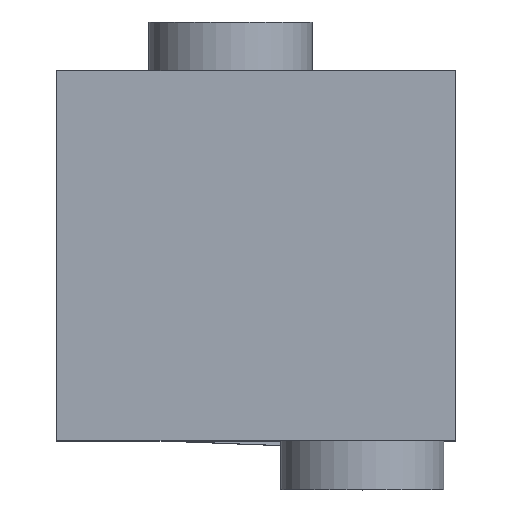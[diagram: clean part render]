
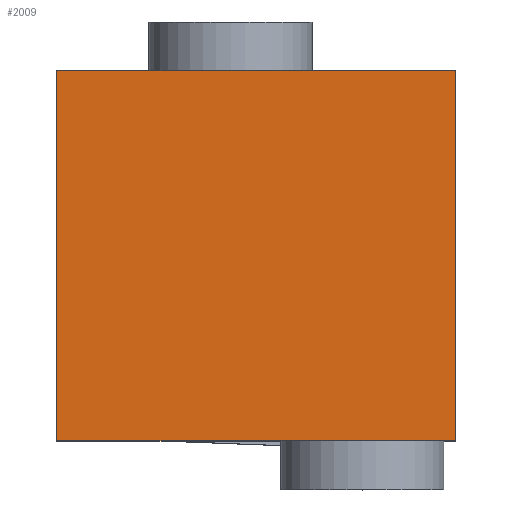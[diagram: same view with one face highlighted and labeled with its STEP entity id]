
A CAD part, top view. The second image highlights one B-rep face of the part: STEP entity #2009.
In plain terms, the highlighted planar face has unit normal (0, 0, 1).
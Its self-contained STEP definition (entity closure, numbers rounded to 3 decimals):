
#140=PLANE('',#2256);
#250=FACE_OUTER_BOUND('',#371,.T.);
#371=EDGE_LOOP('',(#1774,#1775,#1776,#1777));
#500=LINE('',#3695,#634);
#503=LINE('',#3701,#637);
#504=LINE('',#3702,#638);
#505=LINE('',#3703,#639);
#634=VECTOR('',#2796,10.);
#637=VECTOR('',#2801,10.);
#638=VECTOR('',#2802,10.);
#639=VECTOR('',#2803,10.);
#944=VERTEX_POINT('',#3693);
#945=VERTEX_POINT('',#3694);
#946=VERTEX_POINT('',#3699);
#947=VERTEX_POINT('',#3700);
#1226=EDGE_CURVE('',#944,#945,#500,.T.);
#1229=EDGE_CURVE('',#946,#947,#503,.T.);
#1230=EDGE_CURVE('',#945,#947,#504,.T.);
#1231=EDGE_CURVE('',#946,#944,#505,.T.);
#1774=ORIENTED_EDGE('',*,*,#1229,.T.);
#1775=ORIENTED_EDGE('',*,*,#1230,.F.);
#1776=ORIENTED_EDGE('',*,*,#1226,.F.);
#1777=ORIENTED_EDGE('',*,*,#1231,.F.);
#2009=ADVANCED_FACE('',(#250),#140,.T.);
#2256=AXIS2_PLACEMENT_3D('',#3698,#2799,#2800);
#2796=DIRECTION('',(0.,1.,0.));
#2799=DIRECTION('center_axis',(0.,0.,1.));
#2800=DIRECTION('ref_axis',(1.,0.,0.));
#2801=DIRECTION('',(0.,1.,0.));
#2802=DIRECTION('',(1.,0.,0.));
#2803=DIRECTION('',(-1.,0.,0.));
#3693=CARTESIAN_POINT('',(-195.,-181.,123.));
#3694=CARTESIAN_POINT('',(-195.,181.,123.));
#3695=CARTESIAN_POINT('',(-195.,0.,123.));
#3698=CARTESIAN_POINT('Origin',(-195.,0.,123.));
#3699=CARTESIAN_POINT('',(195.,-181.,123.));
#3700=CARTESIAN_POINT('',(195.,181.,123.));
#3701=CARTESIAN_POINT('',(195.,0.,123.));
#3702=CARTESIAN_POINT('',(-195.,181.,123.));
#3703=CARTESIAN_POINT('',(-195.,-181.,123.));
